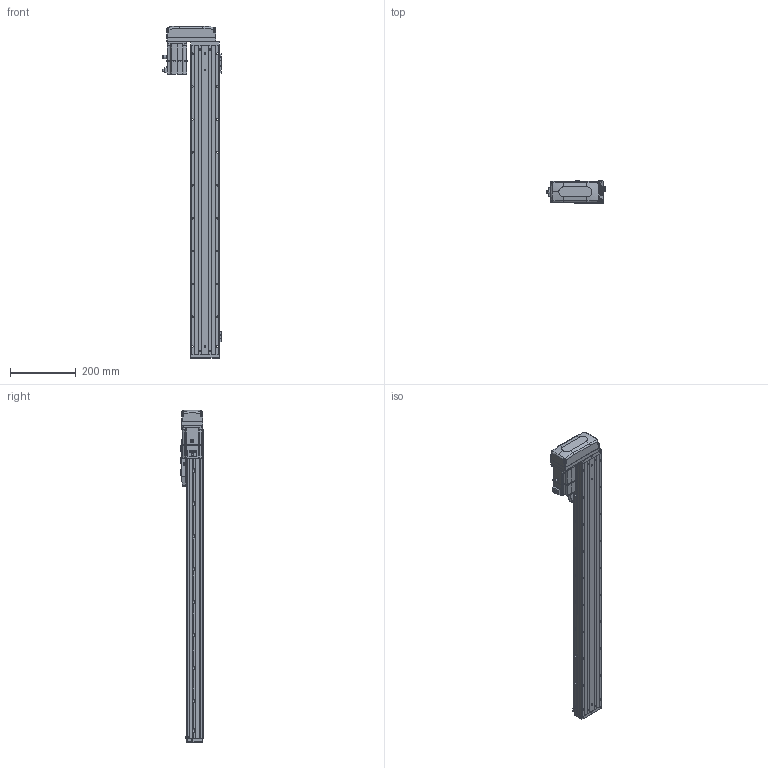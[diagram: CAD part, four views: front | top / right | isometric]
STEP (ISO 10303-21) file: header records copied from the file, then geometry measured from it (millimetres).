
FILE_DESCRIPTION (( 'STEP AP203' ), '1' );
FILE_NAME ('CTHA86-750-BR-M20-C4L.step', '2022-04-26T01:01:09', ( '微软用户' ), ( '微软中国' ), 'SwSTEP 2.0', 'SolidWorks 2020', '' );
FILE_SCHEMA (( 'CONFIG_CONTROL_DESIGN' ));
Length unit declared in the file: millimetre
Products named in the file (21): GBT 70.1-M3℅6; CTHA86-015-1_CTHA86-015-2; CTHA60-017; CTHA60-016; CTHA86-033; CTHA60-021; _X2_4E0983F1_X0_200W_1; CTHA86-750-BR-M20-C4L; KTHA86-001_940; GBT77-2000 M3×3; CTHA86-002; KTHA86-004; GBT 70.1-M3×20; CTHA86-031; KTHA86-005; GBT70.1 M5℅16; CTHA86-030; GB¨uT 70.2-M3¡Á5_M3¡Á6; GBT 70.1-M3×16; GBT 70.3-M3℅6; EE_SX911P_R
Assembly tree (66 placements, depth 2):
  CTHA86-750-BR-M20-C4L
    KTHA86-001_940
    KTHA86-004
    KTHA86-005
    GB¨uT 70.2-M3¡Á5_M3¡Á6  x10
    EE_SX911P_R  x3
    CTHA60-017  x3
    CTHA60-021  x2
    GBT77-2000 M3×3  x6
    GBT 70.1-M3×20
    GBT70.1 M5℅16  x14
    GBT 70.1-M3×16  x5
    GBT 70.1-M3℅6  x6
    CTHA60-016  x2
    _X2_4E0983F1_X0_200W_1
    CTHA86-002
    CTHA86-031
    CTHA86-030  x2
    GBT 70.3-M3℅6  x4
    CTHA86-015-1_CTHA86-015-2
    CTHA86-033
Bounding box: 178.52 x 68 x 1009 mm (x, y, z)
Volume: 3885847 mm3; surface area: 667448.7 mm2
Topology: 68 solids, 68 shells, 2806 faces, 6708 edges, 4132 vertices
Faces by surface type: plane 1475, cylinder 729, cone 371, torus 132, bspline 75, sphere 24
Entity records: 49727 total; most frequent: CARTESIAN_POINT 9619, DIRECTION 7739, ORIENTED_EDGE 7516, EDGE_CURVE 3758, AXIS2_PLACEMENT_3D 2636, LINE 2467, VECTOR 2467, VERTEX_POINT 2364
